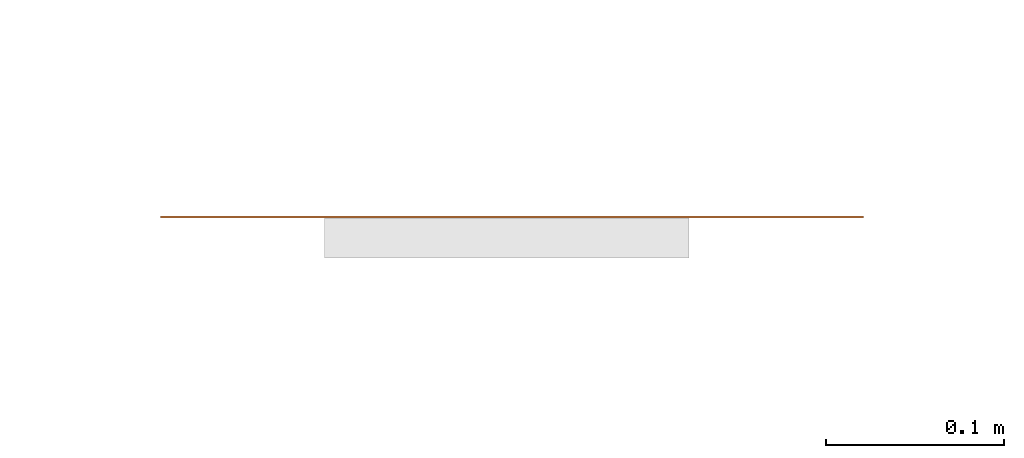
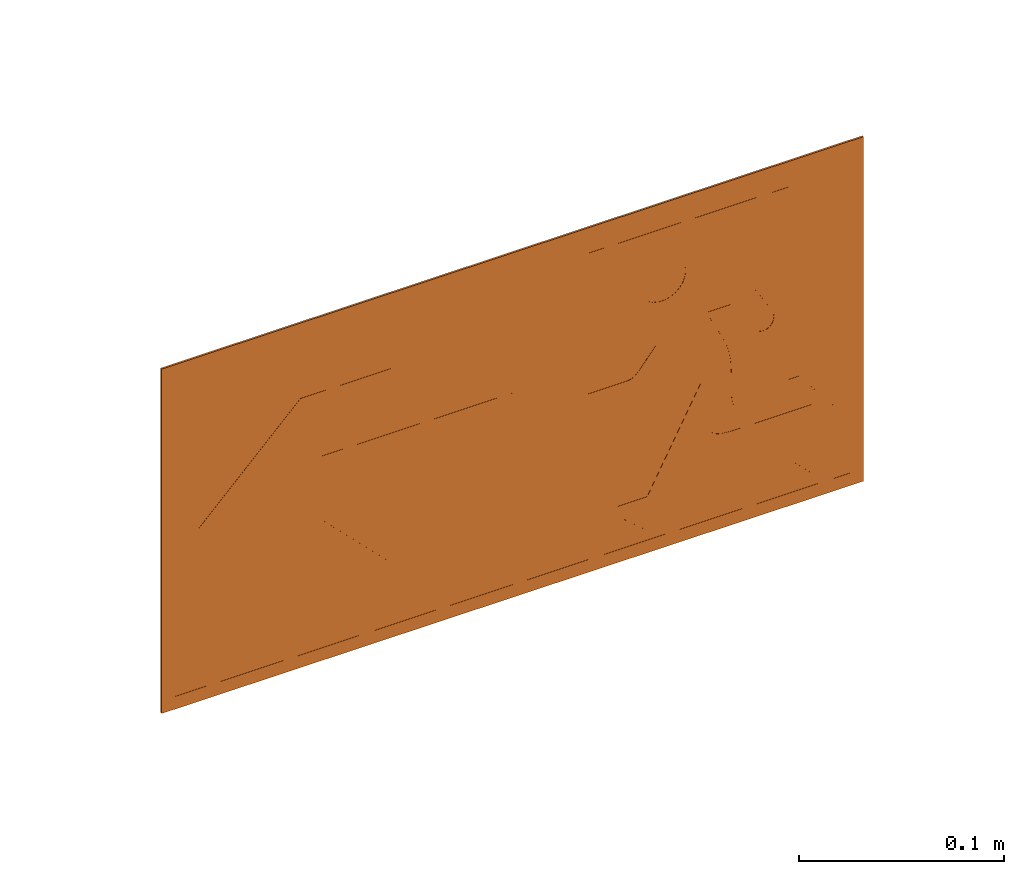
# One storey, part 56 of 119: 1 proxy.
"""IFC2X3 building model written with IfcOpenShell, lengths in metres."""

from ifc_helpers import new_model, entity, si_unit, converted_unit, derived_unit, direction, frame, frame_2d, origin, origin_2d_with_axis, place, context, subcontext, project, spatial, polyline, circle_curve, parameter, trimmed, segment, composite_curve, rectangle, outline, extrude, source, transform, mapped, material, material_list, type_object, type_shapes, element, save


model = new_model("IFC2X3")

# Units and contexts
model_context = context("Model", 3, precision=1e-05, world=origin(), true_north=direction((6.12303176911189e-17, 1.0)))
body_context = subcontext(model_context, "Body", "Model", "MODEL_VIEW")
ifc_project = project(units=[si_unit("LENGTHUNIT", "METRE"), si_unit("AREAUNIT", "SQUARE_METRE"), si_unit("VOLUMEUNIT", "CUBIC_METRE"), converted_unit("PLANEANGLEUNIT", "DEGREE", entity("IfcRatioMeasure", 0.0174532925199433), si_unit("PLANEANGLEUNIT", "RADIAN"), dimensions=[0, 0, 0, 0, 0, 0, 0]), si_unit("MASSUNIT", "GRAM", prefix="KILO"), derived_unit("MASSDENSITYUNIT", [(si_unit("MASSUNIT", "GRAM", prefix="KILO"), 1), (si_unit("LENGTHUNIT", "METRE"), -3)]), derived_unit("MOMENTOFINERTIAUNIT", [(si_unit("LENGTHUNIT", "METRE"), 4)]), si_unit("TIMEUNIT", "SECOND"), si_unit("FREQUENCYUNIT", "HERTZ"), si_unit("THERMODYNAMICTEMPERATUREUNIT", "DEGREE_CELSIUS"), derived_unit("THERMALTRANSMITTANCEUNIT", [(si_unit("MASSUNIT", "GRAM", prefix="KILO"), 1), (si_unit("THERMODYNAMICTEMPERATUREUNIT", "KELVIN"), -1), (si_unit("TIMEUNIT", "SECOND"), -3)]), derived_unit("VOLUMETRICFLOWRATEUNIT", [(si_unit("LENGTHUNIT", "METRE"), 3), (si_unit("TIMEUNIT", "SECOND"), -1)]), si_unit("ELECTRICCURRENTUNIT", "AMPERE"), si_unit("ELECTRICVOLTAGEUNIT", "VOLT"), si_unit("POWERUNIT", "WATT"), si_unit("FORCEUNIT", "NEWTON", prefix="KILO"), si_unit("ILLUMINANCEUNIT", "LUX"), si_unit("LUMINOUSFLUXUNIT", "LUMEN"), si_unit("LUMINOUSINTENSITYUNIT", "CANDELA"), derived_unit("USERDEFINED", [(si_unit("MASSUNIT", "GRAM", prefix="KILO"), -1), (si_unit("LENGTHUNIT", "METRE"), -2), (si_unit("TIMEUNIT", "SECOND"), 3), (si_unit("LUMINOUSFLUXUNIT", "LUMEN"), 1)]), derived_unit("LINEARVELOCITYUNIT", [(si_unit("LENGTHUNIT", "METRE"), 1), (si_unit("TIMEUNIT", "SECOND"), -1)]), si_unit("PRESSUREUNIT", "PASCAL"), derived_unit("USERDEFINED", [(si_unit("LENGTHUNIT", "METRE"), -2), (si_unit("MASSUNIT", "GRAM", prefix="KILO"), 1), (si_unit("TIMEUNIT", "SECOND"), -2)]), derived_unit("LINEARFORCEUNIT", [(si_unit("MASSUNIT", "GRAM", prefix="KILO"), 1), (si_unit("LENGTHUNIT", "METRE"), 1), (si_unit("TIMEUNIT", "SECOND"), -2), (si_unit("LENGTHUNIT", "METRE"), -1)]), derived_unit("PLANARFORCEUNIT", [(si_unit("MASSUNIT", "GRAM", prefix="KILO"), 1), (si_unit("LENGTHUNIT", "METRE"), 1), (si_unit("TIMEUNIT", "SECOND"), -2), (si_unit("LENGTHUNIT", "METRE"), -2)])], contexts=[model_context])

# Site, building, storey
site_placement = place(None, origin())
site = spatial("IfcSite", under=ifc_project, at=site_placement, Name="Default", CompositionType="ELEMENT")
building_placement = place(site_placement, origin())
building = spatial("IfcBuilding", under=site, at=building_placement, CompositionType="ELEMENT")
storey_placement = place(building_placement, origin())
storey = spatial("IfcBuildingStorey", under=building, at=storey_placement, Name="PAV. 01 - TÉRREO", CompositionType="ELEMENT", Elevation=0.0)

# Proxy
ifc_material_1 = material(Name="Plastico branco")
ifc_material_2 = material(Name="Plastico Verde")
ifc_material_list = material_list([ifc_material_1, ifc_material_2])
building_element_proxy_type = type_object("IfcBuildingElementProxyType", Name="Sinalização de orientação - S02 - Indicação do sentido da saída de emergência esquerda:Distância 12m", PredefinedType="NOTDEFINED", material=ifc_material_1)
shared_shape = source(origin(), body_context, "Body", "SweptSolid", [
    extrude(outline(polyline([(-0.0269307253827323, -0.024231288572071), (-0.0259628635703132, -0.024231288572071), (-0.0248498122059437, -0.0234083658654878), (-0.0236286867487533, -0.0219305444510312), (-0.0223366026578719, -0.0199658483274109), (-0.0210106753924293, -0.0176823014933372), (-0.0159905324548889, -0.00832626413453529), (-0.0136800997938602, -0.00426313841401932), (-0.0125256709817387, -0.00238736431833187), (-0.0113513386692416, -0.000610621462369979), (-0.0101417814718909, 0.0010707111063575), (-0.00888166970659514, 0.00266026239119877), (-0.00754048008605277, 0.00417640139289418), (-0.00604105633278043, 0.00568273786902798), (-0.00429732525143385, 0.00725153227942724), (-0.00222321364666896, 0.00895504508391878), (0.000267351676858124, 0.010865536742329), (0.0161156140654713, 0.0220225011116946), (0.00541084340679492, 0.027666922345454), (0.004563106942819, 0.0280964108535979), (0.00398677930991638, 0.0283743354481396), (0.00361343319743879, 0.0285356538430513), (0.00337464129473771, 0.0286153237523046), (0.0032019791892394, 0.0286482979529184), (0.00303386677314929, 0.0286578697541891), (0.00283021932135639, 0.0286307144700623), (0.00255516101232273, 0.02854633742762), (0.00217281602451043, 0.0283842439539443), (0.00164730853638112, 0.0281239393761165), (0.000942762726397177, 0.0277449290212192), (-0.0154440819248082, 0.0179800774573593), (-0.0169906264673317, 0.0173662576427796), (-0.0184263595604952, 0.0170104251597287), (-0.0197467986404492, 0.0168906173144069), (-0.0209474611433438, 0.0169848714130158), (-0.0220238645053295, 0.017271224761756), (-0.0229715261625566, 0.0177277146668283), (-0.0237859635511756, 0.0183323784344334), (-0.0244626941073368, 0.0190632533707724), (-0.0249972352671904, 0.0198983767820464), (-0.025385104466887, 0.0208157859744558), (-0.0256218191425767, 0.0217935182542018), (-0.02570289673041, 0.0228096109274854), (-0.0256238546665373, 0.023842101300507), (-0.0253802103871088, 0.024869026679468), (-0.024967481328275, 0.0258684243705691), (-0.0243811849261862, 0.026818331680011), (-0.0236168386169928, 0.0276967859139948), (-0.022669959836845, 0.0284818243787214), (-0.012358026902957, 0.0349145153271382), (-0.0056365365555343, 0.0389186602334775), (-0.00143098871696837, 0.0410123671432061), (0.00133311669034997, 0.0417137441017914), (0.00371952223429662, 0.0415365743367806), (0.00635115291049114, 0.0408174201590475), (0.00926485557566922, 0.0396572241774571), (0.0124569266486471, 0.0381406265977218), (0.0382522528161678, 0.0245317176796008), (0.0409647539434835, 0.0230291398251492), (0.0432264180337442, 0.021505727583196), (0.0450948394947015, 0.0197223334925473), (0.0466276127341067, 0.0174398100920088), (0.0478823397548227, 0.0144190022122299), (0.0489477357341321, 0.0103891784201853), (0.0500145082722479, 0.00497609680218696), (0.0529984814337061, -0.0115815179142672), (0.0687826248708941, -0.0199385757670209), (0.101976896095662, 0.0427561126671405), (0.00232291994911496, 0.0955188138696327), (-0.0513007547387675, -0.00576130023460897), (-0.0561261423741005, -0.00320645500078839), (-0.0853051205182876, -0.0156605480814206), (-0.0628396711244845, -0.0275550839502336), (-0.0734521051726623, -0.0475990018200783), (-0.0904241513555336, -0.0529832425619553), (-0.0204118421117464, -0.0900518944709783), (-0.00292720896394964, -0.0849390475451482), (0.0122206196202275, -0.0929592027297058), (-0.00693758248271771, -0.0971859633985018), (0.00953030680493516, -0.105905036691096), (0.0262018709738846, -0.100361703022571), (0.0628213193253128, -0.0311978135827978), (0.0451218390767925, -0.0218302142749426), (0.0436304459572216, -0.0209809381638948), (0.0424868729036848, -0.020192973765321), (0.041614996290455, -0.0193663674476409), (0.0409386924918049, -0.0184011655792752), (0.0403818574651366, -0.0171974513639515), (0.0398810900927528, -0.0156792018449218), (0.0394075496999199, -0.0138354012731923), (0.0389382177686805, -0.0116659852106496), (0.0366426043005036, 0.000269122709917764), (0.0172569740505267, -0.0138624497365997), (0.0147941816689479, -0.0880984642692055), (-0.000353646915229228, -0.0800783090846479), (-0.000324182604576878, -0.0142849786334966), (-0.0124368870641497, -0.0319051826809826), (-0.0138384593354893, -0.0341119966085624), (-0.0151491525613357, -0.0360250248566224), (-0.0164165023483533, -0.0376353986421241), (-0.0176880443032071, -0.0389342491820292), (-0.0190113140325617, -0.0399127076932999), (-0.0204338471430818, -0.0405619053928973), (-0.0220031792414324, -0.0408729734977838), (-0.0237668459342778, -0.0408370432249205), (-0.025772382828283, -0.0404452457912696), (-0.0280673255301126, -0.0396887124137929), (-0.0306992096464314, -0.0385585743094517), (-0.0337155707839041, -0.0370459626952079), (-0.0714172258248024, -0.0170844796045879), (-0.0536029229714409, -0.0101094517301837), (-0.0269307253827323, -0.024231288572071)]), holes=[composite_curve([segment(trimmed(circle_curve(frame_2d((0.0517161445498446, 0.0359195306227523), x_axis=(0.883770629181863, -0.46792037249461)), 0.0134), [parameter(180.0)], [parameter(360.0)], True, "PARAMETER"), False, "CONTINUOUS"), segment(trimmed(circle_curve(frame_2d((0.0517161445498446, 0.0359195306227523), x_axis=(0.883770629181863, -0.46792037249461)), 0.0134), [parameter(2.03555499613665e-13)], [parameter(180.0)], True, "PARAMETER"), False, "CONTINUOUS")], self_intersect=False)]), frame((0.112957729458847, -0.00110000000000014, 1.90431633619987), z_axis=(0.0, 1.0, 0.0), x_axis=(-0.883770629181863, 0.0, 0.46792037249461)), (0.0, 0.0, 1.0), 0.0011),
    extrude(outline(polyline([(-0.197500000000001, -0.102500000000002), (0.197500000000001, -0.102500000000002), (0.197500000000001, 0.102500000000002), (-0.197500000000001, 0.102500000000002), (-0.197500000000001, -0.102500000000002)]), holes=[polyline([(-0.190000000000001, -0.0950000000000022), (-0.190000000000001, 0.0949999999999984), (0.189999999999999, 0.0949999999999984), (0.189999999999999, -0.0950000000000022), (-0.190000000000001, -0.0950000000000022)])]), frame((0.0, -0.0011, 1.9025), z_axis=(0.0, 1.0, 0.0), x_axis=(1.0, 0.0, 0.0)), (0.0, 0.0, 1.0), 0.0011),
    extrude(rectangle(XDim=0.38, YDim=0.001, at=origin_2d_with_axis()), frame((0.0, -0.0005, 1.8075)), (0.0, 0.0, 1.0), 0.190000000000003),
    extrude(outline(polyline([(-0.0341511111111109, -0.0575999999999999), (0.016628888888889, -0.0575999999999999), (-0.0218311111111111, -0.0191399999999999), (0.0852288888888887, -0.0191399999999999), (0.0852288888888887, 0.0191400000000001), (-0.0218311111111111, 0.0191400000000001), (0.016628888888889, 0.0576000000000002), (-0.0341511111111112, 0.0576000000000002), (-0.0917511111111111, 0.0), (-0.0341511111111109, -0.0575999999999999)])), frame((-0.0852288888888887, -0.0011, 1.9025), z_axis=(0.0, 1.0, 0.0), x_axis=(1.0, 0.0, 0.0)), (0.0, 0.0, 1.0), 0.0011),
])
type_shapes(building_element_proxy_type, [shared_shape])
proxy_placement = place(storey_placement, frame((51.984689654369, 8.03338193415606, 0.0)))
element("IfcBuildingElementProxy", 1, at=proxy_placement, inside=storey, type_object=building_element_proxy_type, material=ifc_material_list, Name="Sinalização de orientação - S02 - Indicação do sentido da saída de emergência esquerda:Distância 12m", ObjectType="Sinalização de orientação - S02 - Indicação do sentido da saída de emergência esquerda:Distância 12m", context=body_context, shape_type="MappedRepresentation", body=[
    mapped(shared_shape, transform((0.0, 0.0, 0.0), scale=1.0)),
])

save(model, "model.ifc")
